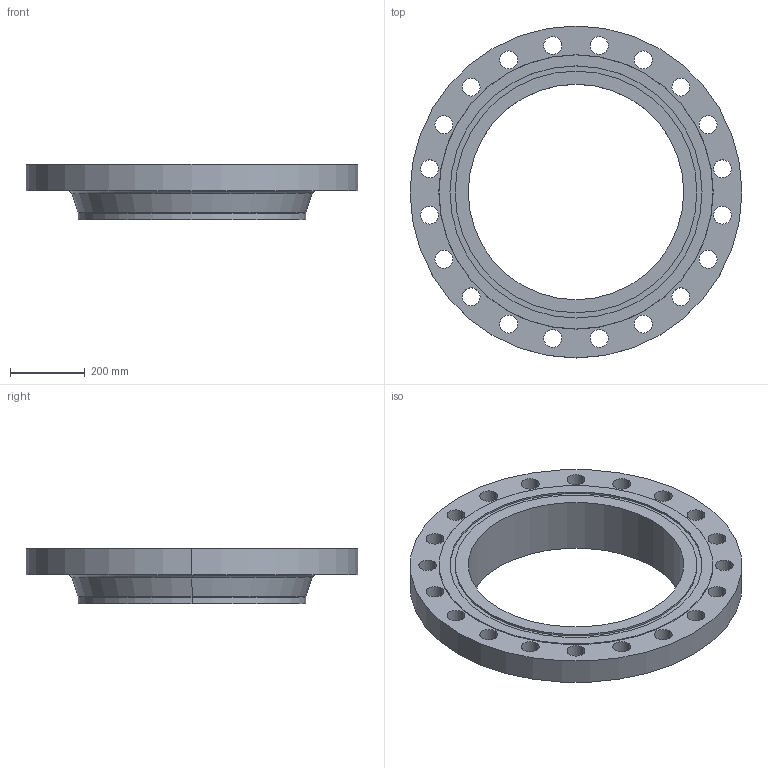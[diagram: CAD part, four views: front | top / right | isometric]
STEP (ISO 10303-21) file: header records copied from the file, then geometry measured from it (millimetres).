
FILE_DESCRIPTION (( 'STEP AP214' ), '1' );
FILE_NAME ('PN40 DN600 Type 11 - Type D Face.STEP', '2018-12-29T04:43:20', ( '' ), ( '' ), 'SwSTEP 2.0', 'SolidWorks 2019', '' );
FILE_SCHEMA (( 'AUTOMOTIVE_DESIGN' ));
Length unit declared in the file: millimetre
Products named in the file (1): PN40 DN600 Type 11 - Type D Face
Bounding box: 890 x 890 x 150 mm (x, y, z)
Volume: 26311363.1 mm3; surface area: 1467100.3 mm2
Topology: 1 solids, 1 shells, 64 faces, 168 edges, 110 vertices
Faces by surface type: cylinder 50, plane 6, torus 4, cone 4
Entity records: 2156 total; most frequent: DIRECTION 412, CARTESIAN_POINT 343, ORIENTED_EDGE 336, AXIS2_PLACEMENT_3D 179, EDGE_CURVE 168, CIRCLE 114, VERTEX_POINT 110, EDGE_LOOP 110
